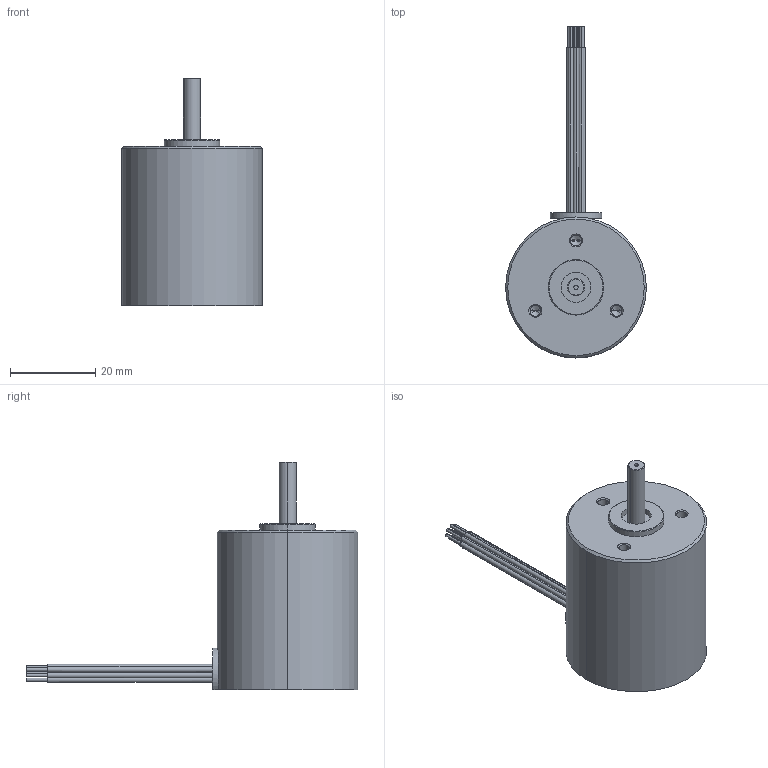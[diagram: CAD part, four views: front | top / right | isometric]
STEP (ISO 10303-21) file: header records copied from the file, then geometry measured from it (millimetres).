
FILE_DESCRIPTION (( 'STEP AP214' ), '1' );
FILE_NAME ('BLWR13 Series.STEP', '2009-12-11T22:38:51', ( 'Tim Raines' ), ( 'Anaheim Automation' ), 'SwSTEP 2.0', 'SolidWorks 2010', '' );
FILE_SCHEMA (( 'AUTOMOTIVE_DESIGN' ));
Length unit declared in the file: millimetre
Products named in the file (1): BLWR13 Series
Bounding box: 33 x 77.83 x 53.45 mm (x, y, z)
Volume: 32765.6 mm3; surface area: 7492.6 mm2
Topology: 1 solids, 1 shells, 105 faces, 216 edges, 135 vertices
Faces by surface type: cylinder 58, plane 29, cone 18
Entity records: 4092 total; most frequent: CARTESIAN_POINT 704, DIRECTION 513, ORIENTED_EDGE 420, AXIS2_PLACEMENT_3D 216, EDGE_CURVE 210, VERTEX_POINT 135, EDGE_LOOP 133, CIRCLE 110
